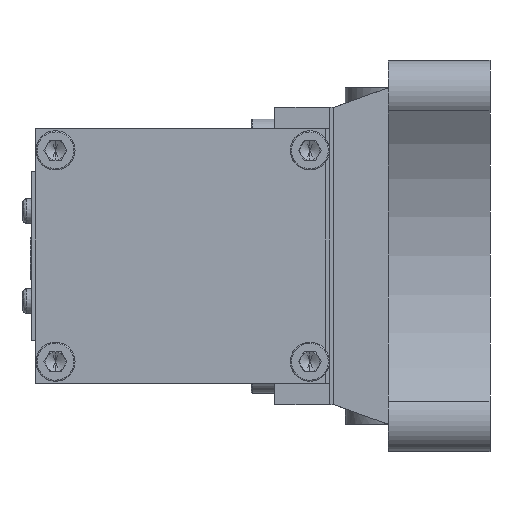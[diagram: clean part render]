
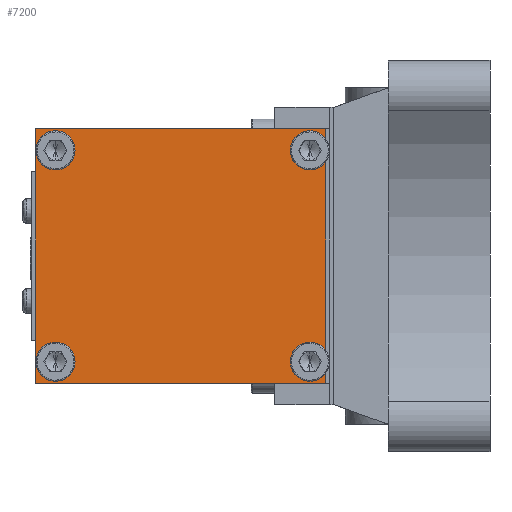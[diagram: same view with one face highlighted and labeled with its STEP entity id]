
A CAD part, left-side view. The second image highlights one B-rep face of the part: STEP entity #7200.
In plain terms, the highlighted planar face has unit normal (-1, 0, 0).
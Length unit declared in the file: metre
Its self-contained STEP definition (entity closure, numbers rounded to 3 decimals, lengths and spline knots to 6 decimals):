
#123 = AXIS2_PLACEMENT_3D ( 'NONE', #10425, #2811, #11717 ) ;
#382 = VERTEX_POINT ( 'NONE', #807 ) ;
#481 = VERTEX_POINT ( 'NONE', #3575 ) ;
#530 = AXIS2_PLACEMENT_3D ( 'NONE', #12588, #4952, #13849 ) ;
#551 = DIRECTION ( 'NONE',  ( 0., 0., -1. ) ) ;
#573 = CARTESIAN_POINT ( 'NONE',  ( 0.065, 0.006, 0.027 ) ) ;
#807 = CARTESIAN_POINT ( 'NONE',  ( 0.065, 0.071, -0.03 ) ) ;
#837 = CARTESIAN_POINT ( 'NONE',  ( 0.065, 0.002, 0.0325 ) ) ;
#1199 = VERTEX_POINT ( 'NONE', #15738 ) ;
#1213 = EDGE_CURVE ( 'NONE', #10749, #5332, #16117, .T. ) ;
#1255 = EDGE_CURVE ( 'NONE', #3956, #7240, #1756, .T. ) ;
#1279 = ORIENTED_EDGE ( 'NONE', *, *, #1213, .F. ) ;
#1326 = DIRECTION ( 'NONE',  ( 0., 1., 0. ) ) ;
#1570 = EDGE_CURVE ( 'NONE', #1199, #7467, #15084, .T. ) ;
#1726 = CIRCLE ( 'NONE', #4703, 0.003 ) ;
#1756 = CIRCLE ( 'NONE', #7765, 0.003 ) ;
#1835 = ORIENTED_EDGE ( 'NONE', *, *, #6579, .F. ) ;
#1848 = DIRECTION ( 'NONE',  ( 0., 0., -1. ) ) ;
#2271 = CARTESIAN_POINT ( 'NONE',  ( 0.065, 0.071, -0.027 ) ) ;
#2365 = EDGE_CURVE ( 'NONE', #7240, #3956, #6273, .T. ) ;
#2600 = CARTESIAN_POINT ( 'NONE',  ( 0.065, 0.039, -0.0325 ) ) ;
#2614 = CARTESIAN_POINT ( 'NONE',  ( 0.065, 0.039, 0.0325 ) ) ;
#2811 = DIRECTION ( 'NONE',  ( -1., 0., 0. ) ) ;
#2819 = EDGE_LOOP ( 'NONE', ( #13244, #8511, #3321, #13480 ) ) ;
#2860 = DIRECTION ( 'NONE',  ( 0., 0., -1. ) ) ;
#2938 = VECTOR ( 'NONE', #3349, 1. ) ;
#3002 = CARTESIAN_POINT ( 'NONE',  ( 0.065, 0.006, -0.03 ) ) ;
#3217 = DIRECTION ( 'NONE',  ( -1., 0., 0. ) ) ;
#3321 = ORIENTED_EDGE ( 'NONE', *, *, #1570, .F. ) ;
#3349 = DIRECTION ( 'NONE',  ( 0., 0., -1. ) ) ;
#3386 = CARTESIAN_POINT ( 'NONE',  ( 0.065, 0.076, 0.0325 ) ) ;
#3420 = EDGE_CURVE ( 'NONE', #12371, #382, #1726, .T. ) ;
#3560 = DIRECTION ( 'NONE',  ( 0., 0., -1. ) ) ;
#3575 = CARTESIAN_POINT ( 'NONE',  ( 0.065, 0.006, 0.024 ) ) ;
#3806 = ORIENTED_EDGE ( 'NONE', *, *, #4704, .F. ) ;
#3863 = EDGE_CURVE ( 'NONE', #5183, #1199, #9671, .T. ) ;
#3956 = VERTEX_POINT ( 'NONE', #9030 ) ;
#4111 = DIRECTION ( 'NONE',  ( -1., 0., 0. ) ) ;
#4343 = EDGE_LOOP ( 'NONE', ( #15111, #5335 ) ) ;
#4703 = AXIS2_PLACEMENT_3D ( 'NONE', #13026, #5387, #14307 ) ;
#4704 = EDGE_CURVE ( 'NONE', #481, #5861, #13636, .T. ) ;
#4745 = CARTESIAN_POINT ( 'NONE',  ( 0.065, 0.071, -0.024 ) ) ;
#4759 = ORIENTED_EDGE ( 'NONE', *, *, #10053, .F. ) ;
#4776 = ORIENTED_EDGE ( 'NONE', *, *, #9808, .F. ) ;
#4952 = DIRECTION ( 'NONE',  ( -1., 0., 0. ) ) ;
#5057 = EDGE_CURVE ( 'NONE', #7467, #11679, #16412, .T. ) ;
#5183 = VERTEX_POINT ( 'NONE', #7881 ) ;
#5332 = VERTEX_POINT ( 'NONE', #3002 ) ;
#5335 = ORIENTED_EDGE ( 'NONE', *, *, #2365, .F. ) ;
#5342 = FACE_BOUND ( 'NONE', #4343, .T. ) ;
#5387 = DIRECTION ( 'NONE',  ( -1., 0., 0. ) ) ;
#5402 = CARTESIAN_POINT ( 'NONE',  ( 0.065, 0.071, 0.03 ) ) ;
#5861 = VERTEX_POINT ( 'NONE', #11324 ) ;
#6100 = CIRCLE ( 'NONE', #7569, 0.003 ) ;
#6273 = CIRCLE ( 'NONE', #530, 0.003 ) ;
#6579 = EDGE_CURVE ( 'NONE', #5861, #481, #15946, .T. ) ;
#7116 = CARTESIAN_POINT ( 'NONE',  ( 0.065, 0.002, 0. ) ) ;
#7200 = ADVANCED_FACE ( 'NONE', ( #5342, #15512, #12151, #8748, #15931 ), #9152, .F. ) ;
#7240 = VERTEX_POINT ( 'NONE', #5402 ) ;
#7302 = EDGE_LOOP ( 'NONE', ( #4759, #1279 ) ) ;
#7467 = VERTEX_POINT ( 'NONE', #3386 ) ;
#7569 = AXIS2_PLACEMENT_3D ( 'NONE', #2271, #11181, #3560 ) ;
#7765 = AXIS2_PLACEMENT_3D ( 'NONE', #10820, #3217, #12135 ) ;
#7881 = CARTESIAN_POINT ( 'NONE',  ( 0.065, 0.002, -0.0325 ) ) ;
#8112 = EDGE_LOOP ( 'NONE', ( #3806, #1835 ) ) ;
#8159 = DIRECTION ( 'NONE',  ( -1., 0., 0. ) ) ;
#8493 = CIRCLE ( 'NONE', #123, 0.003 ) ;
#8511 = ORIENTED_EDGE ( 'NONE', *, *, #5057, .F. ) ;
#8748 = FACE_BOUND ( 'NONE', #7302, .T. ) ;
#9030 = CARTESIAN_POINT ( 'NONE',  ( 0.065, 0.071, 0.024 ) ) ;
#9152 = PLANE ( 'NONE',  #10719 ) ;
#9201 = CARTESIAN_POINT ( 'NONE',  ( 0.065, 0.002, 0.0325 ) ) ;
#9223 = VECTOR ( 'NONE', #11511, 1. ) ;
#9252 = VECTOR ( 'NONE', #1326, 1. ) ;
#9421 = EDGE_CURVE ( 'NONE', #11679, #5183, #13268, .T. ) ;
#9459 = DIRECTION ( 'NONE',  ( -1., 0., 0. ) ) ;
#9671 = LINE ( 'NONE', #2600, #9252 ) ;
#9808 = EDGE_CURVE ( 'NONE', #382, #12371, #6100, .T. ) ;
#10034 = CARTESIAN_POINT ( 'NONE',  ( 0.065, 0.076, 0. ) ) ;
#10053 = EDGE_CURVE ( 'NONE', #5332, #10749, #8493, .T. ) ;
#10317 = EDGE_LOOP ( 'NONE', ( #4776, #15382 ) ) ;
#10425 = CARTESIAN_POINT ( 'NONE',  ( 0.065, 0.006, -0.027 ) ) ;
#10489 = DIRECTION ( 'NONE',  ( 1., 0., 0. ) ) ;
#10531 = CARTESIAN_POINT ( 'NONE',  ( 0.065, 0.006, -0.024 ) ) ;
#10719 = AXIS2_PLACEMENT_3D ( 'NONE', #9201, #10489, #2860 ) ;
#10749 = VERTEX_POINT ( 'NONE', #10531 ) ;
#10820 = CARTESIAN_POINT ( 'NONE',  ( 0.065, 0.071, 0.027 ) ) ;
#11181 = DIRECTION ( 'NONE',  ( -1., 0., 0. ) ) ;
#11324 = CARTESIAN_POINT ( 'NONE',  ( 0.065, 0.006, 0.03 ) ) ;
#11325 = DIRECTION ( 'NONE',  ( 0., 0., 1. ) ) ;
#11511 = DIRECTION ( 'NONE',  ( 0., -1., 0. ) ) ;
#11679 = VERTEX_POINT ( 'NONE', #837 ) ;
#11688 = VECTOR ( 'NONE', #11325, 1. ) ;
#11717 = DIRECTION ( 'NONE',  ( 0., 0., -1. ) ) ;
#11739 = CARTESIAN_POINT ( 'NONE',  ( 0.065, 0.006, 0.027 ) ) ;
#12135 = DIRECTION ( 'NONE',  ( 0., 0., -1. ) ) ;
#12151 = FACE_BOUND ( 'NONE', #8112, .T. ) ;
#12226 = AXIS2_PLACEMENT_3D ( 'NONE', #11739, #4111, #13021 ) ;
#12371 = VERTEX_POINT ( 'NONE', #4745 ) ;
#12523 = AXIS2_PLACEMENT_3D ( 'NONE', #573, #9459, #1848 ) ;
#12588 = CARTESIAN_POINT ( 'NONE',  ( 0.065, 0.071, 0.027 ) ) ;
#13021 = DIRECTION ( 'NONE',  ( 0., 0., -1. ) ) ;
#13026 = CARTESIAN_POINT ( 'NONE',  ( 0.065, 0.071, -0.027 ) ) ;
#13244 = ORIENTED_EDGE ( 'NONE', *, *, #9421, .F. ) ;
#13268 = LINE ( 'NONE', #7116, #2938 ) ;
#13480 = ORIENTED_EDGE ( 'NONE', *, *, #3863, .F. ) ;
#13636 = CIRCLE ( 'NONE', #12523, 0.003 ) ;
#13849 = DIRECTION ( 'NONE',  ( 0., 0., -1. ) ) ;
#14307 = DIRECTION ( 'NONE',  ( 0., 0., -1. ) ) ;
#15084 = LINE ( 'NONE', #10034, #11688 ) ;
#15111 = ORIENTED_EDGE ( 'NONE', *, *, #1255, .F. ) ;
#15382 = ORIENTED_EDGE ( 'NONE', *, *, #3420, .F. ) ;
#15512 = FACE_BOUND ( 'NONE', #10317, .T. ) ;
#15738 = CARTESIAN_POINT ( 'NONE',  ( 0.065, 0.076, -0.0325 ) ) ;
#15763 = AXIS2_PLACEMENT_3D ( 'NONE', #15789, #8159, #551 ) ;
#15789 = CARTESIAN_POINT ( 'NONE',  ( 0.065, 0.006, -0.027 ) ) ;
#15931 = FACE_OUTER_BOUND ( 'NONE', #2819, .T. ) ;
#15946 = CIRCLE ( 'NONE', #12226, 0.003 ) ;
#16117 = CIRCLE ( 'NONE', #15763, 0.003 ) ;
#16412 = LINE ( 'NONE', #2614, #9223 ) ;
